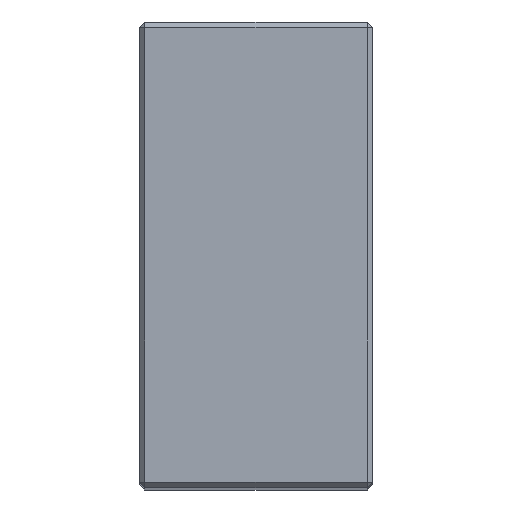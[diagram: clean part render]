
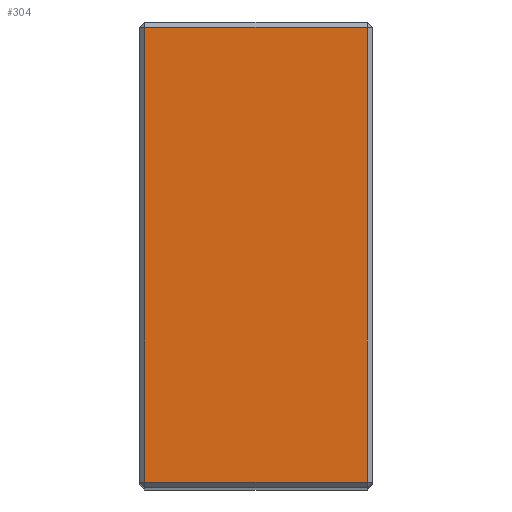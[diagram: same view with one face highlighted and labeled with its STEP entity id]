
A CAD part, top view. The second image highlights one B-rep face of the part: STEP entity #304.
In plain terms, the highlighted planar face has unit normal (0, 0, 1).
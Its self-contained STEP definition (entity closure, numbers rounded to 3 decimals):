
#22 = CARTESIAN_POINT ( 'NONE',  ( 20.5, 85., 123. ) ) ;
#50 = VERTEX_POINT ( 'NONE', #156 ) ;
#72 = DIRECTION ( 'NONE',  ( -1., 0., 0. ) ) ;
#91 = AXIS2_PLACEMENT_3D ( 'NONE', #293, #574, #371 ) ;
#108 = DIRECTION ( 'NONE',  ( 0., -1., 0. ) ) ;
#117 = VECTOR ( 'NONE', #72, 1000. ) ;
#123 = LINE ( 'NONE', #320, #233 ) ;
#134 = EDGE_CURVE ( 'NONE', #631, #215, #140, .T. ) ;
#136 = VECTOR ( 'NONE', #217, 1000. ) ;
#140 = LINE ( 'NONE', #196, #117 ) ;
#156 = CARTESIAN_POINT ( 'NONE',  ( 20.5, 1., 123. ) ) ;
#157 = LINE ( 'NONE', #223, #136 ) ;
#175 = CARTESIAN_POINT ( 'NONE',  ( -20.5, 1., 123. ) ) ;
#196 = CARTESIAN_POINT ( 'NONE',  ( -21.5, 85., 123. ) ) ;
#212 = ORIENTED_EDGE ( 'NONE', *, *, #428, .T. ) ;
#214 = PLANE ( 'NONE',  #91 ) ;
#215 = VERTEX_POINT ( 'NONE', #470 ) ;
#217 = DIRECTION ( 'NONE',  ( 0., 1., 0. ) ) ;
#223 = CARTESIAN_POINT ( 'NONE',  ( 20.5, 86., 123. ) ) ;
#233 = VECTOR ( 'NONE', #108, 1000. ) ;
#249 = VERTEX_POINT ( 'NONE', #175 ) ;
#278 = ORIENTED_EDGE ( 'NONE', *, *, #463, .T. ) ;
#293 = CARTESIAN_POINT ( 'NONE',  ( 21.5, 86., 123. ) ) ;
#304 = ADVANCED_FACE ( 'NONE', ( #375 ), #214, .F. ) ;
#308 = ORIENTED_EDGE ( 'NONE', *, *, #583, .T. ) ;
#320 = CARTESIAN_POINT ( 'NONE',  ( -20.5, 86., 123. ) ) ;
#362 = LINE ( 'NONE', #634, #616 ) ;
#371 = DIRECTION ( 'NONE',  ( -1., 0., 0. ) ) ;
#375 = FACE_OUTER_BOUND ( 'NONE', #500, .T. ) ;
#423 = ORIENTED_EDGE ( 'NONE', *, *, #134, .T. ) ;
#428 = EDGE_CURVE ( 'NONE', #50, #631, #157, .T. ) ;
#463 = EDGE_CURVE ( 'NONE', #215, #249, #123, .T. ) ;
#470 = CARTESIAN_POINT ( 'NONE',  ( -20.5, 85., 123. ) ) ;
#500 = EDGE_LOOP ( 'NONE', ( #423, #278, #308, #212 ) ) ;
#518 = DIRECTION ( 'NONE',  ( 1., 0., 0. ) ) ;
#574 = DIRECTION ( 'NONE',  ( 0., 0., -1. ) ) ;
#583 = EDGE_CURVE ( 'NONE', #249, #50, #362, .T. ) ;
#616 = VECTOR ( 'NONE', #518, 1000. ) ;
#631 = VERTEX_POINT ( 'NONE', #22 ) ;
#634 = CARTESIAN_POINT ( 'NONE',  ( 21.5, 1., 123. ) ) ;
